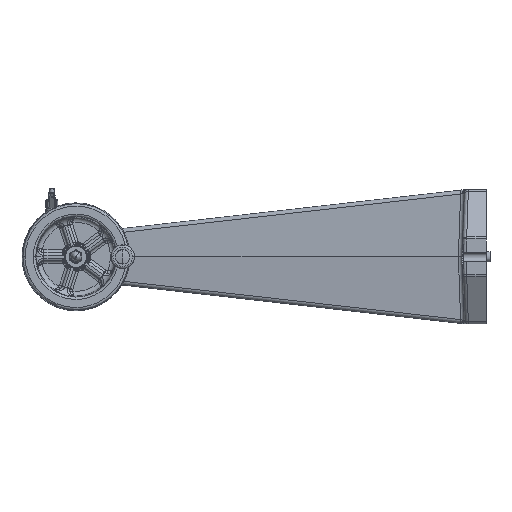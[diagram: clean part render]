
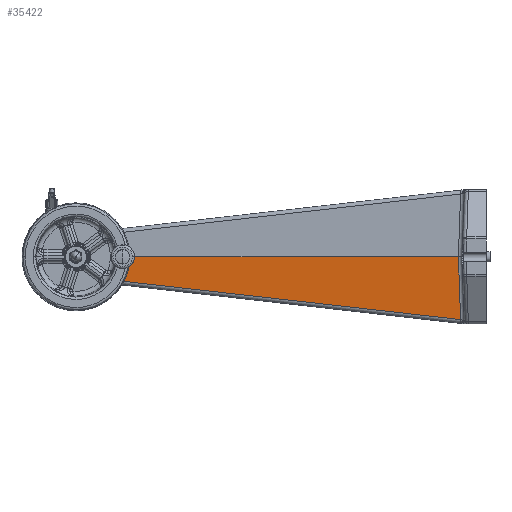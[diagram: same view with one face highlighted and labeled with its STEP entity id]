
A CAD part, left-side view. The second image highlights one B-rep face of the part: STEP entity #35422.
In plain terms, the highlighted planar face has unit normal (-0.996, 0.08, -0.035).
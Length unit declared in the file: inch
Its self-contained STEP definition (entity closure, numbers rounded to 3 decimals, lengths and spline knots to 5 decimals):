
#832 = VERTEX_POINT ( 'NONE', #36956 ) ;
#976 = ORIENTED_EDGE ( 'NONE', *, *, #43729, .T. ) ;
#3643 = EDGE_LOOP ( 'NONE', ( #976, #43600, #54010, #41901, #39764 ) ) ;
#4388 = VERTEX_POINT ( 'NONE', #22176 ) ;
#4908 = DIRECTION ( 'NONE',  ( 0.037, 0.019, -0.999 ) ) ;
#6950 = CARTESIAN_POINT ( 'NONE',  ( -7.14289, 0.14554, 0. ) ) ;
#10010 = DIRECTION ( 'NONE',  ( -0.032, 0.035, 0.999 ) ) ;
#11358 = VECTOR ( 'NONE', #10010, 39.37008 ) ;
#13855 = CARTESIAN_POINT ( 'NONE',  ( -6.98227, 2.14974, -0.00742 ) ) ;
#15200 = DIRECTION ( 'NONE',  ( -0.996, 0.08, -0.035 ) ) ;
#16818 = LINE ( 'NONE', #25361, #41695 ) ;
#17057 = VECTOR ( 'NONE', #37254, 39.37008 ) ;
#17391 = CARTESIAN_POINT ( 'NONE',  ( -5.28437, 23.37339, 0. ) ) ;
#17697 = EDGE_CURVE ( 'Defeatured_0_114+Defeatured_0_289+Defeatured_0_393+Defeatured_0_291', #34513, #4388, #27782, .T. ) ;
#17830 = LINE ( 'NONE', #26100, #28666 ) ;
#22176 = CARTESIAN_POINT ( 'NONE',  ( -5.25297, 23.10528, -1.50872 ) ) ;
#23378 = DIRECTION ( 'NONE',  ( -0.075, -0.991, -0.112 ) ) ;
#23383 = DIRECTION ( 'NONE',  ( -0.08, -0.997, 0. ) ) ;
#24327 = CARTESIAN_POINT ( 'NONE',  ( -7.14289, 0.14554, 0. ) ) ;
#24873 = LINE ( 'NONE', #24327, #17057 ) ;
#25361 = CARTESIAN_POINT ( 'NONE',  ( -6.96486, 0.59242, -4.06107 ) ) ;
#25418 = VECTOR ( 'NONE', #23383, 39.37008 ) ;
#26100 = CARTESIAN_POINT ( 'NONE',  ( -5.30333, 23.36332, 0.51826 ) ) ;
#27782 = LINE ( 'NONE', #31387, #25418 ) ;
#28666 = VECTOR ( 'NONE', #4908, 39.37008 ) ;
#30931 = LINE ( 'NONE', #13855, #11358 ) ;
#31387 = CARTESIAN_POINT ( 'NONE',  ( -7.09037, 0.14134, -1.50872 ) ) ;
#32011 = EDGE_CURVE ( 'Defeatured_0_114+Defeatured_0_250+Defeatured_0_291+Defeatured_0_113', #43835, #832, #30931, .T. ) ;
#32554 = FACE_OUTER_BOUND ( 'NONE', #3643, .T. ) ;
#34513 = VERTEX_POINT ( 'NONE', #38463 ) ;
#35422 = ADVANCED_FACE ( 'Defeatured_0_114', ( #32554 ), #52921, .T. ) ;
#35571 = CARTESIAN_POINT ( 'NONE',  ( -6.85678, 2.01381, -3.89992 ) ) ;
#36672 = DIRECTION ( 'NONE',  ( -0.08, -0.997, 0. ) ) ;
#36956 = CARTESIAN_POINT ( 'NONE',  ( -6.9825, 2.15, 0. ) ) ;
#37254 = DIRECTION ( 'NONE',  ( 0.08, 0.997, 0. ) ) ;
#38463 = CARTESIAN_POINT ( 'NONE',  ( -5.22917, 23.40269, -1.50872 ) ) ;
#39764 = ORIENTED_EDGE ( 'NONE', *, *, #32011, .T. ) ;
#41695 = VECTOR ( 'NONE', #23378, 39.37008 ) ;
#41745 = VERTEX_POINT ( 'NONE', #17391 ) ;
#41901 = ORIENTED_EDGE ( 'NONE', *, *, #44084, .T. ) ;
#43600 = ORIENTED_EDGE ( 'NONE', *, *, #45225, .T. ) ;
#43729 = EDGE_CURVE ( 'Defeatured_0_114+Defeatured_0_113+Defeatured_0_250+Defeatured_0_393', #832, #41745, #24873, .T. ) ;
#43835 = VERTEX_POINT ( 'NONE', #35571 ) ;
#44084 = EDGE_CURVE ( 'Defeatured_0_114+Defeatured_0_291+Defeatured_0_289+Defeatured_0_250', #4388, #43835, #16818, .T. ) ;
#45225 = EDGE_CURVE ( 'Defeatured_0_114+Defeatured_0_393+Defeatured_0_113+Defeatured_0_289', #41745, #34513, #17830, .T. ) ;
#52921 = PLANE ( 'NONE',  #54065 ) ;
#54010 = ORIENTED_EDGE ( 'NONE', *, *, #17697, .T. ) ;
#54065 = AXIS2_PLACEMENT_3D ( 'NONE', #6950, #15200, #36672 ) ;
